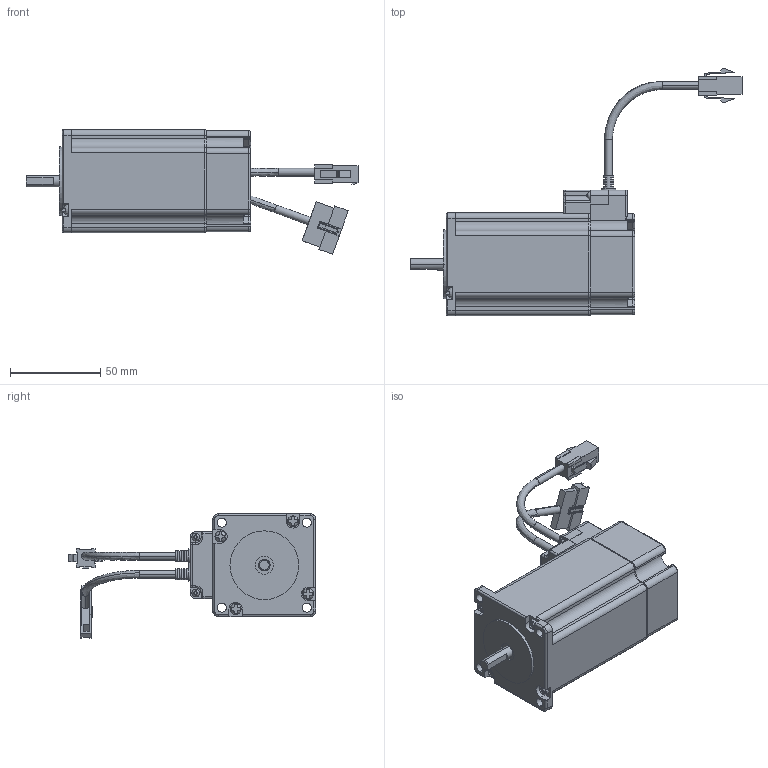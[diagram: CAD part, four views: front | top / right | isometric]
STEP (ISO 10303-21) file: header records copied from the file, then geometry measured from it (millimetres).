
FILE_DESCRIPTION (( 'STEP AP203' ), '1' );
FILE_NAME ('M11-MO-056-03-R00.STEP', '2014-12-21T05:40:37', ( 'Registered User' ), ( 'Microsoft Corporation' ), 'SwSTEP 2.0', 'SolidWorks 2013', '' );
FILE_SCHEMA (( 'CONFIG_CONTROL_DESIGN' ));
Length unit declared in the file: millimetre
Products named in the file (10): Mainconnector_e-1-4; MainEzM-56S-assembly-1; EzM-56S Aassembly_091218; M11-MO-056-03-R00(EzM-56L-01); M11-MO-056-03-R00; MainEZSV_56_Cable_Cover-1-1; MainEZSV_56_Encoder_Cover-1-1; MainEncoder_Mounting_Plate-1-1; MainM3-screw-1; Maincable-1-1
Assembly tree (14 placements, depth 4):
  M11-MO-056-03-R00
    M11-MO-056-03-R00(EzM-56L-01)
    EzM-56S Aassembly_091218
      MainEzM-56S-assembly-1
        MainEZSV_56_Cable_Cover-1-1
        MainEZSV_56_Encoder_Cover-1-1
        MainEncoder_Mounting_Plate-1-1
        MainM3-screw-1  x6
        Maincable-1-1
        Mainconnector_e-1-4
Bounding box: 184 x 137.16 x 68.99 mm (x, y, z)
Volume: 263034.3 mm3; surface area: 58379.8 mm2
Topology: 12 solids, 12 shells, 900 faces, 2382 edges, 1538 vertices
Faces by surface type: plane 489, cylinder 338, bspline 56, torus 12, cone 5
Entity records: 28541 total; most frequent: CARTESIAN_POINT 7884, ORIENTED_EDGE 4140, DIRECTION 3952, EDGE_CURVE 2070, AXIS2_PLACEMENT_3D 1368, VERTEX_POINT 1348, LINE 1216, VECTOR 1216
